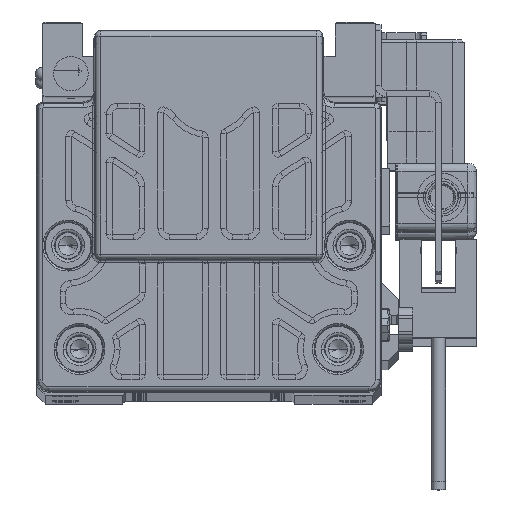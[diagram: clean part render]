
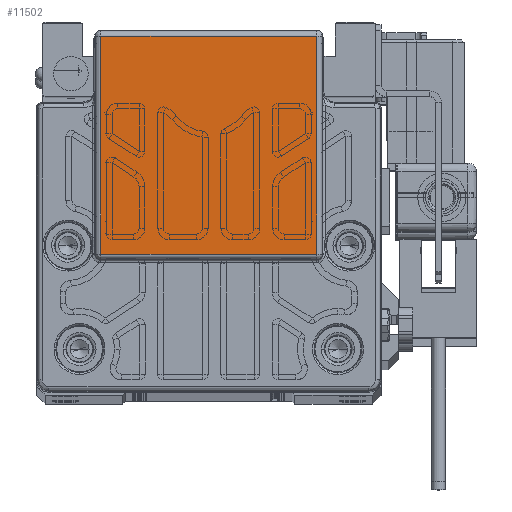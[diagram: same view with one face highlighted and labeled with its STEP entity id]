
A CAD part, top view. The second image highlights one B-rep face of the part: STEP entity #11502.
In plain terms, the highlighted planar face has unit normal (0, 0, 1) as drawn and (0, 0, -1) by its records, which use the part's own axes.
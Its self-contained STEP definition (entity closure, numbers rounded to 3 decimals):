
#3856 = VERTEX_POINT ( 'NONE', #83585 ) ;
#4993 = EDGE_CURVE ( 'NONE', #20772, #65012, #13746, .T. ) ;
#5948 = ORIENTED_EDGE ( 'NONE', *, *, #4993, .T. ) ;
#7764 = VERTEX_POINT ( 'NONE', #75044 ) ;
#11502 = ADVANCED_FACE ( 'NONE', ( #47281 ), #54427, .T. ) ;
#11597 = VECTOR ( 'NONE', #80976, 1000. ) ;
#11634 = CARTESIAN_POINT ( 'NONE',  ( -18.808, 62.447, -143. ) ) ;
#13153 = DIRECTION ( 'NONE',  ( 0., 1., 0. ) ) ;
#13256 = LINE ( 'NONE', #68436, #11597 ) ;
#13746 = LINE ( 'NONE', #27254, #64920 ) ;
#20772 = VERTEX_POINT ( 'NONE', #11634 ) ;
#21341 = EDGE_CURVE ( 'NONE', #20772, #3856, #58536, .T. ) ;
#27254 = CARTESIAN_POINT ( 'NONE',  ( 19., 62.447, -143. ) ) ;
#27532 = DIRECTION ( 'NONE',  ( 0., 1., 0. ) ) ;
#27921 = CARTESIAN_POINT ( 'NONE',  ( 19., 24.5, -143. ) ) ;
#36945 = EDGE_CURVE ( 'NONE', #7764, #65012, #62052, .T. ) ;
#37113 = VECTOR ( 'NONE', #27532, 1000. ) ;
#38502 = EDGE_LOOP ( 'NONE', ( #51936, #38523, #52380, #5948 ) ) ;
#38523 = ORIENTED_EDGE ( 'NONE', *, *, #52327, .F. ) ;
#41469 = CARTESIAN_POINT ( 'NONE',  ( 18.808, 24.5, -143. ) ) ;
#42611 = CARTESIAN_POINT ( 'NONE',  ( 18.808, 62.447, -143. ) ) ;
#47281 = FACE_OUTER_BOUND ( 'NONE', #38502, .T. ) ;
#51936 = ORIENTED_EDGE ( 'NONE', *, *, #36945, .F. ) ;
#52327 = EDGE_CURVE ( 'NONE', #3856, #7764, #13256, .T. ) ;
#52380 = ORIENTED_EDGE ( 'NONE', *, *, #21341, .F. ) ;
#52563 = VECTOR ( 'NONE', #79157, 1000. ) ;
#53266 = DIRECTION ( 'NONE',  ( 1., 0., 0. ) ) ;
#54427 = PLANE ( 'NONE',  #83769 ) ;
#58536 = LINE ( 'NONE', #85887, #52563 ) ;
#62052 = LINE ( 'NONE', #41469, #37113 ) ;
#64920 = VECTOR ( 'NONE', #53266, 1000. ) ;
#65012 = VERTEX_POINT ( 'NONE', #42611 ) ;
#68436 = CARTESIAN_POINT ( 'NONE',  ( 19., 24.518, -143. ) ) ;
#75044 = CARTESIAN_POINT ( 'NONE',  ( 18.808, 24.518, -143. ) ) ;
#79157 = DIRECTION ( 'NONE',  ( 0., -1., 0. ) ) ;
#80976 = DIRECTION ( 'NONE',  ( 1., 0., 0. ) ) ;
#82185 = DIRECTION ( 'NONE',  ( 0., 0., -1. ) ) ;
#83585 = CARTESIAN_POINT ( 'NONE',  ( -18.808, 24.518, -143. ) ) ;
#83769 = AXIS2_PLACEMENT_3D ( 'NONE', #27921, #82185, #13153 ) ;
#85887 = CARTESIAN_POINT ( 'NONE',  ( -18.808, 31., -143. ) ) ;
